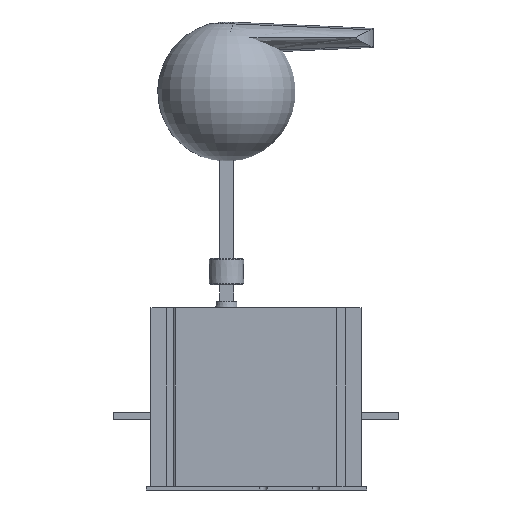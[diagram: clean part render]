
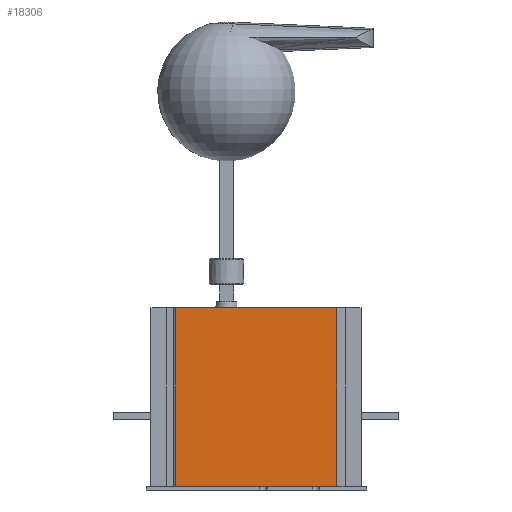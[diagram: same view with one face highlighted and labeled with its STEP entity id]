
A CAD part, left-side view. The second image highlights one B-rep face of the part: STEP entity #18306.
In plain terms, the highlighted planar face has unit normal (-1, 0, 0).
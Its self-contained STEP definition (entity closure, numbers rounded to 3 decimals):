
#1304 = CARTESIAN_POINT ( 'NONE',  ( -98.5, 0., 104.2 ) ) ;
#1306 = VECTOR ( 'NONE', #12643, 1000. ) ;
#1497 = CARTESIAN_POINT ( 'NONE',  ( -98.5, 45.8, 104.2 ) ) ;
#1606 = FACE_OUTER_BOUND ( 'NONE', #8288, .T. ) ;
#2020 = EDGE_CURVE ( 'NONE', #10867, #10046, #6398, .T. ) ;
#4320 = PLANE ( 'NONE',  #16483 ) ;
#4372 = DIRECTION ( 'NONE',  ( 0., 1., 0. ) ) ;
#4506 = CARTESIAN_POINT ( 'NONE',  ( -98.5, -46.2, 2. ) ) ;
#5464 = ORIENTED_EDGE ( 'NONE', *, *, #13806, .F. ) ;
#6105 = DIRECTION ( 'NONE',  ( 0., 0., -1. ) ) ;
#6201 = LINE ( 'NONE', #17813, #8441 ) ;
#6398 = LINE ( 'NONE', #12895, #13755 ) ;
#7191 = ORIENTED_EDGE ( 'NONE', *, *, #8475, .T. ) ;
#8288 = EDGE_LOOP ( 'NONE', ( #16471, #5464, #12610, #7191 ) ) ;
#8441 = VECTOR ( 'NONE', #14910, 1000. ) ;
#8475 = EDGE_CURVE ( 'NONE', #16694, #10046, #16983, .T. ) ;
#8810 = EDGE_CURVE ( 'NONE', #12836, #16694, #6201, .T. ) ;
#9184 = CARTESIAN_POINT ( 'NONE',  ( -98.5, -46.2, 104.2 ) ) ;
#9196 = CARTESIAN_POINT ( 'NONE',  ( -98.5, 45.8, 2. ) ) ;
#10046 = VERTEX_POINT ( 'NONE', #9196 ) ;
#10867 = VERTEX_POINT ( 'NONE', #4506 ) ;
#11070 = CARTESIAN_POINT ( 'NONE',  ( -98.5, -46.2, 104.2 ) ) ;
#11404 = DIRECTION ( 'NONE',  ( -1., 0., 0. ) ) ;
#12072 = VECTOR ( 'NONE', #6105, 1000. ) ;
#12610 = ORIENTED_EDGE ( 'NONE', *, *, #8810, .T. ) ;
#12643 = DIRECTION ( 'NONE',  ( 0., 0., -1. ) ) ;
#12836 = VERTEX_POINT ( 'NONE', #11070 ) ;
#12842 = DIRECTION ( 'NONE',  ( 0., -1., 0. ) ) ;
#12895 = CARTESIAN_POINT ( 'NONE',  ( -98.5, 0., 2. ) ) ;
#13755 = VECTOR ( 'NONE', #4372, 1000. ) ;
#13806 = EDGE_CURVE ( 'NONE', #12836, #10867, #17738, .T. ) ;
#14910 = DIRECTION ( 'NONE',  ( 0., 1., 0. ) ) ;
#16471 = ORIENTED_EDGE ( 'NONE', *, *, #2020, .F. ) ;
#16483 = AXIS2_PLACEMENT_3D ( 'NONE', #1304, #11404, #12842 ) ;
#16694 = VERTEX_POINT ( 'NONE', #1497 ) ;
#16983 = LINE ( 'NONE', #17010, #1306 ) ;
#17010 = CARTESIAN_POINT ( 'NONE',  ( -98.5, 45.8, 104.2 ) ) ;
#17738 = LINE ( 'NONE', #9184, #12072 ) ;
#17813 = CARTESIAN_POINT ( 'NONE',  ( -98.5, 0., 104.2 ) ) ;
#18306 = ADVANCED_FACE ( 'NONE', ( #1606 ), #4320, .T. ) ;
